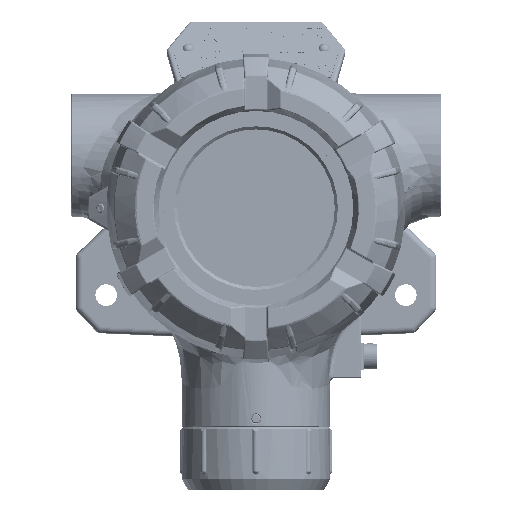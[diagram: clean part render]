
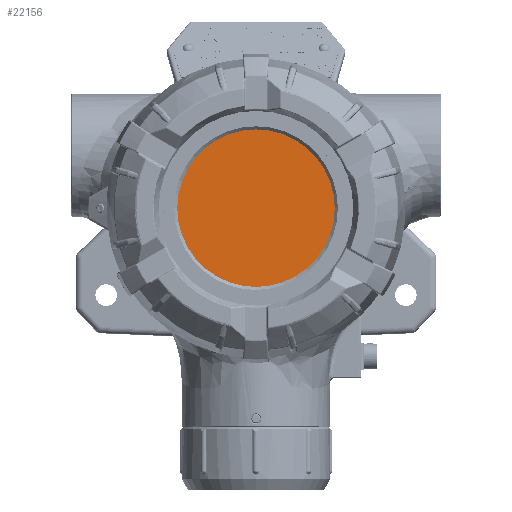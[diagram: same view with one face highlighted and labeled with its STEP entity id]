
A CAD part, top view. The second image highlights one B-rep face of the part: STEP entity #22156.
In plain terms, the highlighted planar face has unit normal (0, 0, 1) as drawn and (0, 1, 0) by its records, which use the part's own axes.
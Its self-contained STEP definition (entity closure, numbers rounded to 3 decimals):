
#15838 = CIRCLE ( 'NONE', #106818, 39.6 ) ;
#16496 = FACE_OUTER_BOUND ( 'NONE', #103312, .T. ) ;
#22156 = ADVANCED_FACE ( 'NONE', ( #16496 ), #114176, .T. ) ;
#26911 = DIRECTION ( 'NONE',  ( 0., -1., 0. ) ) ;
#41365 = EDGE_CURVE ( 'NONE', #216012, #128566, #194338, .T. ) ;
#42128 = DIRECTION ( 'NONE',  ( 0., -1., 0. ) ) ;
#47291 = CARTESIAN_POINT ( 'NONE',  ( 0., 40., 0. ) ) ;
#72179 = DIRECTION ( 'NONE',  ( 0., 1., 0. ) ) ;
#85307 = DIRECTION ( 'NONE',  ( 0., 0., -1. ) ) ;
#88954 = EDGE_CURVE ( 'NONE', #128566, #216012, #15838, .T. ) ;
#96937 = ORIENTED_EDGE ( 'NONE', *, *, #88954, .F. ) ;
#101616 = CARTESIAN_POINT ( 'NONE',  ( 0., 40., 39.6 ) ) ;
#103312 = EDGE_LOOP ( 'NONE', ( #96937, #181254 ) ) ;
#106818 = AXIS2_PLACEMENT_3D ( 'NONE', #47291, #26911, #85307 ) ;
#114176 = PLANE ( 'NONE',  #218860 ) ;
#119533 = CARTESIAN_POINT ( 'NONE',  ( 0., 40., 0. ) ) ;
#128566 = VERTEX_POINT ( 'NONE', #239588 ) ;
#143775 = DIRECTION ( 'NONE',  ( 0., 0., -1. ) ) ;
#181254 = ORIENTED_EDGE ( 'NONE', *, *, #41365, .F. ) ;
#194338 = CIRCLE ( 'NONE', #220250, 39.6 ) ;
#216012 = VERTEX_POINT ( 'NONE', #101616 ) ;
#218503 = DIRECTION ( 'NONE',  ( 0., 0., 1. ) ) ;
#218860 = AXIS2_PLACEMENT_3D ( 'NONE', #119533, #72179, #218503 ) ;
#220250 = AXIS2_PLACEMENT_3D ( 'NONE', #244168, #42128, #143775 ) ;
#239588 = CARTESIAN_POINT ( 'NONE',  ( 0., 40., -39.6 ) ) ;
#244168 = CARTESIAN_POINT ( 'NONE',  ( 0., 40., 0. ) ) ;
